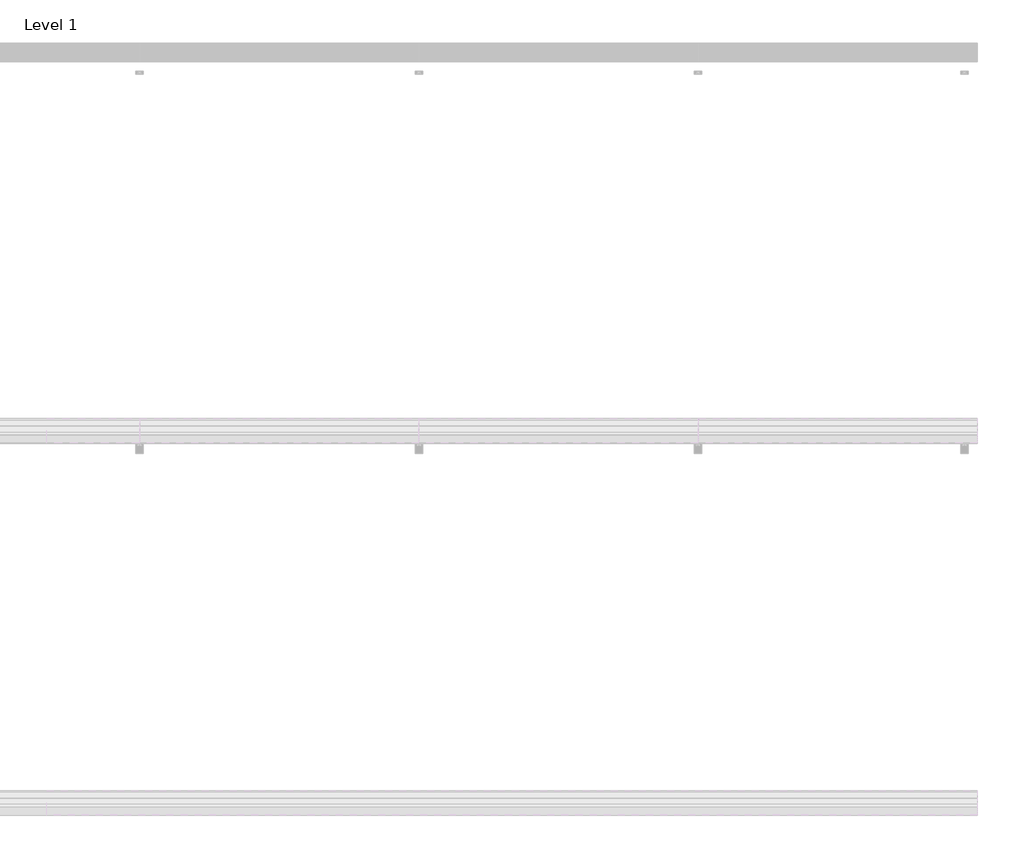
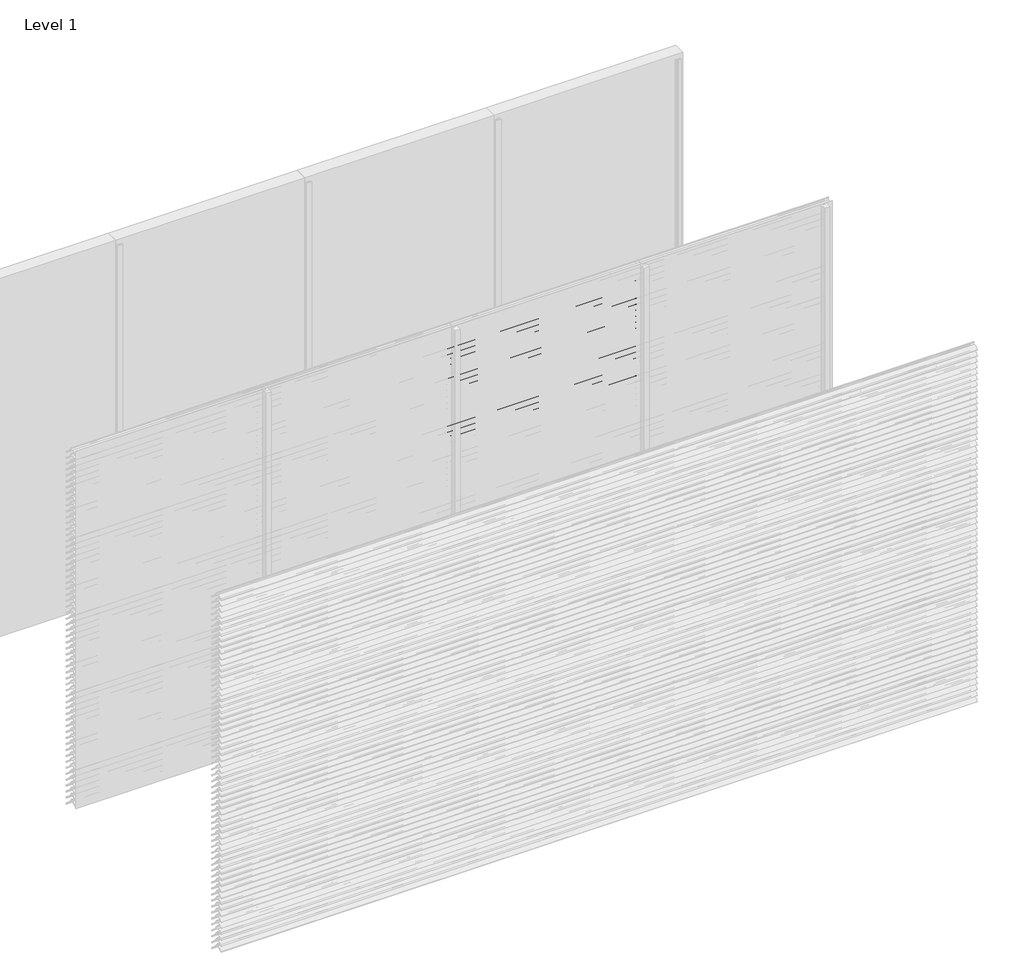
# One storey, part 82 of 173: 17 proxies.
"""IFC4 building model written with IfcOpenShell, lengths in millimetres."""

from ifc_helpers import new_model, si_unit, point, frame, frame_2d, origin, place, context, project, spatial, polyline, circle_curve, trimmed, segment, composite_curve, outline, extrude, element, save

model = new_model("IFC4")

# Units and contexts
model_context = context("Model", 3, world=origin())
ifc_project = project(units=[si_unit("LENGTHUNIT", "METRE", prefix="MILLI")], contexts=[model_context])

# Site, building, storey
site = spatial("IfcSite", under=ifc_project)
building = spatial("IfcBuilding", under=site)
storey = spatial("IfcBuildingStorey", under=building, Name="Level 1", Elevation=0.0)

# Proxies
placement = place(None, origin())
element("IfcBuildingElementProxy", 1, Name="Wall Sweeps", at=placement, inside=storey, context=model_context, shape_type="SweptSolid", body=[
    extrude(outline(composite_curve([segment(polyline([(-29998.0, 2809.1474905), (-29998.0, 2811.6227417)]), True, "CONTINUOUS"), segment(trimmed(circle_curve(frame_2d((-29951.2682172, 2766.2200208)), 65.1557103), [point((-29998.0, 2811.6227417))], [point((-29954.4014323, 2831.3003524))], False, "CARTESIAN"), True, "CONTINUOUS"), segment(polyline([(-29954.4014323, 2831.3003524), (-29934.8315836, 2831.3003524)]), True, "CONTINUOUS"), segment(trimmed(circle_curve(frame_2d((-29732.7329489, 2978.5533172)), 250.0545817), [point((-29934.8315836, 2831.3003524))], [point((-29941.4452143, 2840.8344583))], False, "CARTESIAN"), True, "CONTINUOUS"), segment(trimmed(circle_curve(frame_2d((-29953.2981792, 2835.1737835)), 13.1352966), [point((-29941.4452143, 2840.8344583))], [point((-29953.8171475, 2848.298824))], True, "CARTESIAN"), True, "CONTINUOUS"), segment(polyline([(-29953.8171475, 2848.298824), (-29953.8171475, 2850.0)]), True, "CONTINUOUS"), segment(trimmed(circle_curve(frame_2d((-29953.2981792, 2835.1737835)), 14.8352966), [point((-29953.8171475, 2850.0))], [point((-29939.9637661, 2841.6760487))], False, "CARTESIAN"), True, "CONTINUOUS"), segment(trimmed(circle_curve(frame_2d((-29732.7329489, 2978.5533172)), 248.3545817), [point((-29939.9637661, 2841.6760487))], [point((-29873.8787895, 2774.2059416))], True, "CARTESIAN"), True, "CONTINUOUS"), segment(trimmed(circle_curve(frame_2d((-29883.8147537, 2761.6649442)), 16.0), [point((-29873.8787895, 2774.2059416))], [point((-29867.8648347, 2760.4))], False, "CARTESIAN"), True, "CONTINUOUS"), segment(polyline([(-29867.8648347, 2760.4), (-29869.6712069, 2760.4)]), True, "CONTINUOUS"), segment(trimmed(circle_curve(frame_2d((-29883.8147537, 2761.6649442)), 14.2), [point((-29869.6712069, 2760.4))], [point((-29874.9518628, 2772.7594998))], True, "CARTESIAN"), True, "CONTINUOUS"), segment(trimmed(circle_curve(frame_2d((-29732.7329489, 2978.5533172)), 250.1545817), [point((-29874.9518628, 2772.7594998))], [point((-29933.7064024, 2829.6003524))], False, "CARTESIAN"), True, "CONTINUOUS"), segment(polyline([(-29933.7064024, 2829.6003524), (-29954.3602632, 2829.6003524)]), True, "CONTINUOUS"), segment(trimmed(circle_curve(frame_2d((-29951.2682172, 2766.2200208)), 63.4557103), [point((-29954.3602632, 2829.6003524))], [point((-29998.0, 2809.1474905))], True, "CARTESIAN"), True, "CONTINUOUS")], self_intersect=False)), frame((3000.0, 0.0, 0.0), z_axis=(1.0, 0.0, 0.0), x_axis=(0.0, 1.0, 0.0)), (0.0, 0.0, 1.0), 1500.0),
])
element("IfcBuildingElementProxy", 2, Name="Wall Sweeps", at=placement, inside=storey, context=model_context, shape_type="SweptSolid", body=[
    extrude(outline(composite_curve([segment(polyline([(-29998.0, 2759.1474905), (-29998.0, 2761.6227417)]), True, "CONTINUOUS"), segment(trimmed(circle_curve(frame_2d((-29951.2682172, 2716.2200208)), 65.1557103), [point((-29998.0, 2761.6227417))], [point((-29954.4014323, 2781.3003524))], False, "CARTESIAN"), True, "CONTINUOUS"), segment(polyline([(-29954.4014323, 2781.3003524), (-29934.8315836, 2781.3003524)]), True, "CONTINUOUS"), segment(trimmed(circle_curve(frame_2d((-29732.7329489, 2928.5533172)), 250.0545817), [point((-29934.8315836, 2781.3003524))], [point((-29941.4452143, 2790.8344583))], False, "CARTESIAN"), True, "CONTINUOUS"), segment(trimmed(circle_curve(frame_2d((-29953.2981792, 2785.1737835)), 13.1352966), [point((-29941.4452143, 2790.8344583))], [point((-29953.8171475, 2798.298824))], True, "CARTESIAN"), True, "CONTINUOUS"), segment(polyline([(-29953.8171475, 2798.298824), (-29953.8171475, 2800.0)]), True, "CONTINUOUS"), segment(trimmed(circle_curve(frame_2d((-29953.2981792, 2785.1737835)), 14.8352966), [point((-29953.8171475, 2800.0))], [point((-29939.9637661, 2791.6760487))], False, "CARTESIAN"), True, "CONTINUOUS"), segment(trimmed(circle_curve(frame_2d((-29732.7329489, 2928.5533172)), 248.3545817), [point((-29939.9637661, 2791.6760487))], [point((-29873.8787895, 2724.2059416))], True, "CARTESIAN"), True, "CONTINUOUS"), segment(trimmed(circle_curve(frame_2d((-29883.8147537, 2711.6649442)), 16.0), [point((-29873.8787895, 2724.2059416))], [point((-29867.8648347, 2710.4))], False, "CARTESIAN"), True, "CONTINUOUS"), segment(polyline([(-29867.8648347, 2710.4), (-29869.6712069, 2710.4)]), True, "CONTINUOUS"), segment(trimmed(circle_curve(frame_2d((-29883.8147537, 2711.6649442)), 14.2), [point((-29869.6712069, 2710.4))], [point((-29874.9518628, 2722.7594998))], True, "CARTESIAN"), True, "CONTINUOUS"), segment(trimmed(circle_curve(frame_2d((-29732.7329489, 2928.5533172)), 250.1545817), [point((-29874.9518628, 2722.7594998))], [point((-29933.7064024, 2779.6003524))], False, "CARTESIAN"), True, "CONTINUOUS"), segment(polyline([(-29933.7064024, 2779.6003524), (-29954.3602632, 2779.6003524)]), True, "CONTINUOUS"), segment(trimmed(circle_curve(frame_2d((-29951.2682172, 2716.2200208)), 63.4557103), [point((-29954.3602632, 2779.6003524))], [point((-29998.0, 2759.1474905))], True, "CARTESIAN"), True, "CONTINUOUS")], self_intersect=False)), frame((3000.0, 0.0, 0.0), z_axis=(1.0, 0.0, 0.0), x_axis=(0.0, 1.0, 0.0)), (0.0, 0.0, 1.0), 1500.0),
])
element("IfcBuildingElementProxy", 3, Name="Wall Sweeps", at=placement, inside=storey, context=model_context, shape_type="SweptSolid", body=[
    extrude(outline(composite_curve([segment(polyline([(-29998.0, 2709.1474905), (-29998.0, 2711.6227417)]), True, "CONTINUOUS"), segment(trimmed(circle_curve(frame_2d((-29951.2682172, 2666.2200208)), 65.1557103), [point((-29998.0, 2711.6227417))], [point((-29954.4014323, 2731.3003524))], False, "CARTESIAN"), True, "CONTINUOUS"), segment(polyline([(-29954.4014323, 2731.3003524), (-29934.8315836, 2731.3003524)]), True, "CONTINUOUS"), segment(trimmed(circle_curve(frame_2d((-29732.7329489, 2878.5533172)), 250.0545817), [point((-29934.8315836, 2731.3003524))], [point((-29941.4452143, 2740.8344583))], False, "CARTESIAN"), True, "CONTINUOUS"), segment(trimmed(circle_curve(frame_2d((-29953.2981792, 2735.1737835)), 13.1352966), [point((-29941.4452143, 2740.8344583))], [point((-29953.8171475, 2748.298824))], True, "CARTESIAN"), True, "CONTINUOUS"), segment(polyline([(-29953.8171475, 2748.298824), (-29953.8171475, 2750.0)]), True, "CONTINUOUS"), segment(trimmed(circle_curve(frame_2d((-29953.2981792, 2735.1737835)), 14.8352966), [point((-29953.8171475, 2750.0))], [point((-29939.9637661, 2741.6760487))], False, "CARTESIAN"), True, "CONTINUOUS"), segment(trimmed(circle_curve(frame_2d((-29732.7329489, 2878.5533172)), 248.3545817), [point((-29939.9637661, 2741.6760487))], [point((-29873.8787895, 2674.2059416))], True, "CARTESIAN"), True, "CONTINUOUS"), segment(trimmed(circle_curve(frame_2d((-29883.8147537, 2661.6649442)), 16.0), [point((-29873.8787895, 2674.2059416))], [point((-29867.8648347, 2660.4))], False, "CARTESIAN"), True, "CONTINUOUS"), segment(polyline([(-29867.8648347, 2660.4), (-29869.6712069, 2660.4)]), True, "CONTINUOUS"), segment(trimmed(circle_curve(frame_2d((-29883.8147537, 2661.6649442)), 14.2), [point((-29869.6712069, 2660.4))], [point((-29874.9518628, 2672.7594998))], True, "CARTESIAN"), True, "CONTINUOUS"), segment(trimmed(circle_curve(frame_2d((-29732.7329489, 2878.5533172)), 250.1545817), [point((-29874.9518628, 2672.7594998))], [point((-29933.7064024, 2729.6003524))], False, "CARTESIAN"), True, "CONTINUOUS"), segment(polyline([(-29933.7064024, 2729.6003524), (-29954.3602632, 2729.6003524)]), True, "CONTINUOUS"), segment(trimmed(circle_curve(frame_2d((-29951.2682172, 2666.2200208)), 63.4557103), [point((-29954.3602632, 2729.6003524))], [point((-29998.0, 2709.1474905))], True, "CARTESIAN"), True, "CONTINUOUS")], self_intersect=False)), frame((3000.0, 0.0, 0.0), z_axis=(1.0, 0.0, 0.0), x_axis=(0.0, 1.0, 0.0)), (0.0, 0.0, 1.0), 1500.0),
])
element("IfcBuildingElementProxy", 4, Name="Wall Sweeps", at=placement, inside=storey, context=model_context, shape_type="SweptSolid", body=[
    extrude(outline(composite_curve([segment(polyline([(-29998.0, 2659.1474905), (-29998.0, 2661.6227417)]), True, "CONTINUOUS"), segment(trimmed(circle_curve(frame_2d((-29951.2682172, 2616.2200208)), 65.1557103), [point((-29998.0, 2661.6227417))], [point((-29954.4014323, 2681.3003524))], False, "CARTESIAN"), True, "CONTINUOUS"), segment(polyline([(-29954.4014323, 2681.3003524), (-29934.8315836, 2681.3003524)]), True, "CONTINUOUS"), segment(trimmed(circle_curve(frame_2d((-29732.7329489, 2828.5533172)), 250.0545817), [point((-29934.8315836, 2681.3003524))], [point((-29941.4452143, 2690.8344583))], False, "CARTESIAN"), True, "CONTINUOUS"), segment(trimmed(circle_curve(frame_2d((-29953.2981792, 2685.1737835)), 13.1352966), [point((-29941.4452143, 2690.8344583))], [point((-29953.8171475, 2698.298824))], True, "CARTESIAN"), True, "CONTINUOUS"), segment(polyline([(-29953.8171475, 2698.298824), (-29953.8171475, 2700.0)]), True, "CONTINUOUS"), segment(trimmed(circle_curve(frame_2d((-29953.2981792, 2685.1737835)), 14.8352966), [point((-29953.8171475, 2700.0))], [point((-29939.9637661, 2691.6760487))], False, "CARTESIAN"), True, "CONTINUOUS"), segment(trimmed(circle_curve(frame_2d((-29732.7329489, 2828.5533172)), 248.3545817), [point((-29939.9637661, 2691.6760487))], [point((-29873.8787895, 2624.2059416))], True, "CARTESIAN"), True, "CONTINUOUS"), segment(trimmed(circle_curve(frame_2d((-29883.8147537, 2611.6649442)), 16.0), [point((-29873.8787895, 2624.2059416))], [point((-29867.8648347, 2610.4))], False, "CARTESIAN"), True, "CONTINUOUS"), segment(polyline([(-29867.8648347, 2610.4), (-29869.6712069, 2610.4)]), True, "CONTINUOUS"), segment(trimmed(circle_curve(frame_2d((-29883.8147537, 2611.6649442)), 14.2), [point((-29869.6712069, 2610.4))], [point((-29874.9518628, 2622.7594998))], True, "CARTESIAN"), True, "CONTINUOUS"), segment(trimmed(circle_curve(frame_2d((-29732.7329489, 2828.5533172)), 250.1545817), [point((-29874.9518628, 2622.7594998))], [point((-29933.7064024, 2679.6003524))], False, "CARTESIAN"), True, "CONTINUOUS"), segment(polyline([(-29933.7064024, 2679.6003524), (-29954.3602632, 2679.6003524)]), True, "CONTINUOUS"), segment(trimmed(circle_curve(frame_2d((-29951.2682172, 2616.2200208)), 63.4557103), [point((-29954.3602632, 2679.6003524))], [point((-29998.0, 2659.1474905))], True, "CARTESIAN"), True, "CONTINUOUS")], self_intersect=False)), frame((3000.0, 0.0, 0.0), z_axis=(1.0, 0.0, 0.0), x_axis=(0.0, 1.0, 0.0)), (0.0, 0.0, 1.0), 1500.0),
])
element("IfcBuildingElementProxy", 5, Name="Wall Sweeps", at=placement, inside=storey, context=model_context, shape_type="SweptSolid", body=[
    extrude(outline(composite_curve([segment(polyline([(-29998.0, 2609.1474905), (-29998.0, 2611.6227417)]), True, "CONTINUOUS"), segment(trimmed(circle_curve(frame_2d((-29951.2682172, 2566.2200208)), 65.1557103), [point((-29998.0, 2611.6227417))], [point((-29954.4014323, 2631.3003524))], False, "CARTESIAN"), True, "CONTINUOUS"), segment(polyline([(-29954.4014323, 2631.3003524), (-29934.8315836, 2631.3003524)]), True, "CONTINUOUS"), segment(trimmed(circle_curve(frame_2d((-29732.7329489, 2778.5533172)), 250.0545817), [point((-29934.8315836, 2631.3003524))], [point((-29941.4452143, 2640.8344583))], False, "CARTESIAN"), True, "CONTINUOUS"), segment(trimmed(circle_curve(frame_2d((-29953.2981792, 2635.1737835)), 13.1352966), [point((-29941.4452143, 2640.8344583))], [point((-29953.8171475, 2648.298824))], True, "CARTESIAN"), True, "CONTINUOUS"), segment(polyline([(-29953.8171475, 2648.298824), (-29953.8171475, 2650.0)]), True, "CONTINUOUS"), segment(trimmed(circle_curve(frame_2d((-29953.2981792, 2635.1737835)), 14.8352966), [point((-29953.8171475, 2650.0))], [point((-29939.9637661, 2641.6760487))], False, "CARTESIAN"), True, "CONTINUOUS"), segment(trimmed(circle_curve(frame_2d((-29732.7329489, 2778.5533172)), 248.3545817), [point((-29939.9637661, 2641.6760487))], [point((-29873.8787895, 2574.2059416))], True, "CARTESIAN"), True, "CONTINUOUS"), segment(trimmed(circle_curve(frame_2d((-29883.8147537, 2561.6649442)), 16.0), [point((-29873.8787895, 2574.2059416))], [point((-29867.8648347, 2560.4))], False, "CARTESIAN"), True, "CONTINUOUS"), segment(polyline([(-29867.8648347, 2560.4), (-29869.6712069, 2560.4)]), True, "CONTINUOUS"), segment(trimmed(circle_curve(frame_2d((-29883.8147537, 2561.6649442)), 14.2), [point((-29869.6712069, 2560.4))], [point((-29874.9518628, 2572.7594998))], True, "CARTESIAN"), True, "CONTINUOUS"), segment(trimmed(circle_curve(frame_2d((-29732.7329489, 2778.5533172)), 250.1545817), [point((-29874.9518628, 2572.7594998))], [point((-29933.7064024, 2629.6003524))], False, "CARTESIAN"), True, "CONTINUOUS"), segment(polyline([(-29933.7064024, 2629.6003524), (-29954.3602632, 2629.6003524)]), True, "CONTINUOUS"), segment(trimmed(circle_curve(frame_2d((-29951.2682172, 2566.2200208)), 63.4557103), [point((-29954.3602632, 2629.6003524))], [point((-29998.0, 2609.1474905))], True, "CARTESIAN"), True, "CONTINUOUS")], self_intersect=False)), frame((3000.0, 0.0, 0.0), z_axis=(1.0, 0.0, 0.0), x_axis=(0.0, 1.0, 0.0)), (0.0, 0.0, 1.0), 1500.0),
])
element("IfcBuildingElementProxy", 6, Name="Wall Sweeps", at=placement, inside=storey, context=model_context, shape_type="SweptSolid", body=[
    extrude(outline(composite_curve([segment(polyline([(-29998.0, 2559.1474905), (-29998.0, 2561.6227417)]), True, "CONTINUOUS"), segment(trimmed(circle_curve(frame_2d((-29951.2682172, 2516.2200208)), 65.1557103), [point((-29998.0, 2561.6227417))], [point((-29954.4014323, 2581.3003524))], False, "CARTESIAN"), True, "CONTINUOUS"), segment(polyline([(-29954.4014323, 2581.3003524), (-29934.8315836, 2581.3003524)]), True, "CONTINUOUS"), segment(trimmed(circle_curve(frame_2d((-29732.7329489, 2728.5533172)), 250.0545817), [point((-29934.8315836, 2581.3003524))], [point((-29941.4452143, 2590.8344583))], False, "CARTESIAN"), True, "CONTINUOUS"), segment(trimmed(circle_curve(frame_2d((-29953.2981792, 2585.1737835)), 13.1352966), [point((-29941.4452143, 2590.8344583))], [point((-29953.8171475, 2598.298824))], True, "CARTESIAN"), True, "CONTINUOUS"), segment(polyline([(-29953.8171475, 2598.298824), (-29953.8171475, 2600.0)]), True, "CONTINUOUS"), segment(trimmed(circle_curve(frame_2d((-29953.2981792, 2585.1737835)), 14.8352966), [point((-29953.8171475, 2600.0))], [point((-29939.9637661, 2591.6760487))], False, "CARTESIAN"), True, "CONTINUOUS"), segment(trimmed(circle_curve(frame_2d((-29732.7329489, 2728.5533172)), 248.3545817), [point((-29939.9637661, 2591.6760487))], [point((-29873.8787895, 2524.2059416))], True, "CARTESIAN"), True, "CONTINUOUS"), segment(trimmed(circle_curve(frame_2d((-29883.8147537, 2511.6649442)), 16.0), [point((-29873.8787895, 2524.2059416))], [point((-29867.8648347, 2510.4))], False, "CARTESIAN"), True, "CONTINUOUS"), segment(polyline([(-29867.8648347, 2510.4), (-29869.6712069, 2510.4)]), True, "CONTINUOUS"), segment(trimmed(circle_curve(frame_2d((-29883.8147537, 2511.6649442)), 14.2), [point((-29869.6712069, 2510.4))], [point((-29874.9518628, 2522.7594998))], True, "CARTESIAN"), True, "CONTINUOUS"), segment(trimmed(circle_curve(frame_2d((-29732.7329489, 2728.5533172)), 250.1545817), [point((-29874.9518628, 2522.7594998))], [point((-29933.7064024, 2579.6003524))], False, "CARTESIAN"), True, "CONTINUOUS"), segment(polyline([(-29933.7064024, 2579.6003524), (-29954.3602632, 2579.6003524)]), True, "CONTINUOUS"), segment(trimmed(circle_curve(frame_2d((-29951.2682172, 2516.2200208)), 63.4557103), [point((-29954.3602632, 2579.6003524))], [point((-29998.0, 2559.1474905))], True, "CARTESIAN"), True, "CONTINUOUS")], self_intersect=False)), frame((3000.0, 0.0, 0.0), z_axis=(1.0, 0.0, 0.0), x_axis=(0.0, 1.0, 0.0)), (0.0, 0.0, 1.0), 1500.0),
])
element("IfcBuildingElementProxy", 7, Name="Wall Sweeps", at=placement, inside=storey, context=model_context, shape_type="SweptSolid", body=[
    extrude(outline(composite_curve([segment(polyline([(-29998.0, 2509.1474905), (-29998.0, 2511.6227417)]), True, "CONTINUOUS"), segment(trimmed(circle_curve(frame_2d((-29951.2682172, 2466.2200208)), 65.1557103), [point((-29998.0, 2511.6227417))], [point((-29954.4014323, 2531.3003524))], False, "CARTESIAN"), True, "CONTINUOUS"), segment(polyline([(-29954.4014323, 2531.3003524), (-29934.8315836, 2531.3003524)]), True, "CONTINUOUS"), segment(trimmed(circle_curve(frame_2d((-29732.7329489, 2678.5533172)), 250.0545817), [point((-29934.8315836, 2531.3003524))], [point((-29941.4452143, 2540.8344583))], False, "CARTESIAN"), True, "CONTINUOUS"), segment(trimmed(circle_curve(frame_2d((-29953.2981792, 2535.1737835)), 13.1352966), [point((-29941.4452143, 2540.8344583))], [point((-29953.8171475, 2548.298824))], True, "CARTESIAN"), True, "CONTINUOUS"), segment(polyline([(-29953.8171475, 2548.298824), (-29953.8171475, 2550.0)]), True, "CONTINUOUS"), segment(trimmed(circle_curve(frame_2d((-29953.2981792, 2535.1737835)), 14.8352966), [point((-29953.8171475, 2550.0))], [point((-29939.9637661, 2541.6760487))], False, "CARTESIAN"), True, "CONTINUOUS"), segment(trimmed(circle_curve(frame_2d((-29732.7329489, 2678.5533172)), 248.3545817), [point((-29939.9637661, 2541.6760487))], [point((-29873.8787895, 2474.2059416))], True, "CARTESIAN"), True, "CONTINUOUS"), segment(trimmed(circle_curve(frame_2d((-29883.8147537, 2461.6649442)), 16.0), [point((-29873.8787895, 2474.2059416))], [point((-29867.8648347, 2460.4))], False, "CARTESIAN"), True, "CONTINUOUS"), segment(polyline([(-29867.8648347, 2460.4), (-29869.6712069, 2460.4)]), True, "CONTINUOUS"), segment(trimmed(circle_curve(frame_2d((-29883.8147537, 2461.6649442)), 14.2), [point((-29869.6712069, 2460.4))], [point((-29874.9518628, 2472.7594998))], True, "CARTESIAN"), True, "CONTINUOUS"), segment(trimmed(circle_curve(frame_2d((-29732.7329489, 2678.5533172)), 250.1545817), [point((-29874.9518628, 2472.7594998))], [point((-29933.7064024, 2529.6003524))], False, "CARTESIAN"), True, "CONTINUOUS"), segment(polyline([(-29933.7064024, 2529.6003524), (-29954.3602632, 2529.6003524)]), True, "CONTINUOUS"), segment(trimmed(circle_curve(frame_2d((-29951.2682172, 2466.2200208)), 63.4557103), [point((-29954.3602632, 2529.6003524))], [point((-29998.0, 2509.1474905))], True, "CARTESIAN"), True, "CONTINUOUS")], self_intersect=False)), frame((3000.0, 0.0, 0.0), z_axis=(1.0, 0.0, 0.0), x_axis=(0.0, 1.0, 0.0)), (0.0, 0.0, 1.0), 1500.0),
])
element("IfcBuildingElementProxy", 8, Name="Wall Sweeps", at=placement, inside=storey, context=model_context, shape_type="SweptSolid", body=[
    extrude(outline(composite_curve([segment(polyline([(-29998.0, 2459.1474905), (-29998.0, 2461.6227417)]), True, "CONTINUOUS"), segment(trimmed(circle_curve(frame_2d((-29951.2682172, 2416.2200208)), 65.1557103), [point((-29998.0, 2461.6227417))], [point((-29954.4014323, 2481.3003524))], False, "CARTESIAN"), True, "CONTINUOUS"), segment(polyline([(-29954.4014323, 2481.3003524), (-29934.8315836, 2481.3003524)]), True, "CONTINUOUS"), segment(trimmed(circle_curve(frame_2d((-29732.7329489, 2628.5533172)), 250.0545817), [point((-29934.8315836, 2481.3003524))], [point((-29941.4452143, 2490.8344583))], False, "CARTESIAN"), True, "CONTINUOUS"), segment(trimmed(circle_curve(frame_2d((-29953.2981792, 2485.1737835)), 13.1352966), [point((-29941.4452143, 2490.8344583))], [point((-29953.8171475, 2498.298824))], True, "CARTESIAN"), True, "CONTINUOUS"), segment(polyline([(-29953.8171475, 2498.298824), (-29953.8171475, 2500.0)]), True, "CONTINUOUS"), segment(trimmed(circle_curve(frame_2d((-29953.2981792, 2485.1737835)), 14.8352966), [point((-29953.8171475, 2500.0))], [point((-29939.9637661, 2491.6760487))], False, "CARTESIAN"), True, "CONTINUOUS"), segment(trimmed(circle_curve(frame_2d((-29732.7329489, 2628.5533172)), 248.3545817), [point((-29939.9637661, 2491.6760487))], [point((-29873.8787895, 2424.2059416))], True, "CARTESIAN"), True, "CONTINUOUS"), segment(trimmed(circle_curve(frame_2d((-29883.8147537, 2411.6649442)), 16.0), [point((-29873.8787895, 2424.2059416))], [point((-29867.8648347, 2410.4))], False, "CARTESIAN"), True, "CONTINUOUS"), segment(polyline([(-29867.8648347, 2410.4), (-29869.6712069, 2410.4)]), True, "CONTINUOUS"), segment(trimmed(circle_curve(frame_2d((-29883.8147537, 2411.6649442)), 14.2), [point((-29869.6712069, 2410.4))], [point((-29874.9518628, 2422.7594998))], True, "CARTESIAN"), True, "CONTINUOUS"), segment(trimmed(circle_curve(frame_2d((-29732.7329489, 2628.5533172)), 250.1545817), [point((-29874.9518628, 2422.7594998))], [point((-29933.7064024, 2479.6003524))], False, "CARTESIAN"), True, "CONTINUOUS"), segment(polyline([(-29933.7064024, 2479.6003524), (-29954.3602632, 2479.6003524)]), True, "CONTINUOUS"), segment(trimmed(circle_curve(frame_2d((-29951.2682172, 2416.2200208)), 63.4557103), [point((-29954.3602632, 2479.6003524))], [point((-29998.0, 2459.1474905))], True, "CARTESIAN"), True, "CONTINUOUS")], self_intersect=False)), frame((3000.0, 0.0, 0.0), z_axis=(1.0, 0.0, 0.0), x_axis=(0.0, 1.0, 0.0)), (0.0, 0.0, 1.0), 1500.0),
])
element("IfcBuildingElementProxy", 9, Name="Wall Sweeps", at=placement, inside=storey, context=model_context, shape_type="SweptSolid", body=[
    extrude(outline(composite_curve([segment(polyline([(-29998.0, 2409.1474905), (-29998.0, 2411.6227417)]), True, "CONTINUOUS"), segment(trimmed(circle_curve(frame_2d((-29951.2682172, 2366.2200208)), 65.1557103), [point((-29998.0, 2411.6227417))], [point((-29954.4014323, 2431.3003524))], False, "CARTESIAN"), True, "CONTINUOUS"), segment(polyline([(-29954.4014323, 2431.3003524), (-29934.8315836, 2431.3003524)]), True, "CONTINUOUS"), segment(trimmed(circle_curve(frame_2d((-29732.7329489, 2578.5533172)), 250.0545817), [point((-29934.8315836, 2431.3003524))], [point((-29941.4452143, 2440.8344583))], False, "CARTESIAN"), True, "CONTINUOUS"), segment(trimmed(circle_curve(frame_2d((-29953.2981792, 2435.1737835)), 13.1352966), [point((-29941.4452143, 2440.8344583))], [point((-29953.8171475, 2448.298824))], True, "CARTESIAN"), True, "CONTINUOUS"), segment(polyline([(-29953.8171475, 2448.298824), (-29953.8171475, 2450.0)]), True, "CONTINUOUS"), segment(trimmed(circle_curve(frame_2d((-29953.2981792, 2435.1737835)), 14.8352966), [point((-29953.8171475, 2450.0))], [point((-29939.9637661, 2441.6760487))], False, "CARTESIAN"), True, "CONTINUOUS"), segment(trimmed(circle_curve(frame_2d((-29732.7329489, 2578.5533172)), 248.3545817), [point((-29939.9637661, 2441.6760487))], [point((-29873.8787895, 2374.2059416))], True, "CARTESIAN"), True, "CONTINUOUS"), segment(trimmed(circle_curve(frame_2d((-29883.8147537, 2361.6649442)), 16.0), [point((-29873.8787895, 2374.2059416))], [point((-29867.8648347, 2360.4))], False, "CARTESIAN"), True, "CONTINUOUS"), segment(polyline([(-29867.8648347, 2360.4), (-29869.6712069, 2360.4)]), True, "CONTINUOUS"), segment(trimmed(circle_curve(frame_2d((-29883.8147537, 2361.6649442)), 14.2), [point((-29869.6712069, 2360.4))], [point((-29874.9518628, 2372.7594998))], True, "CARTESIAN"), True, "CONTINUOUS"), segment(trimmed(circle_curve(frame_2d((-29732.7329489, 2578.5533172)), 250.1545817), [point((-29874.9518628, 2372.7594998))], [point((-29933.7064024, 2429.6003524))], False, "CARTESIAN"), True, "CONTINUOUS"), segment(polyline([(-29933.7064024, 2429.6003524), (-29954.3602632, 2429.6003524)]), True, "CONTINUOUS"), segment(trimmed(circle_curve(frame_2d((-29951.2682172, 2366.2200208)), 63.4557103), [point((-29954.3602632, 2429.6003524))], [point((-29998.0, 2409.1474905))], True, "CARTESIAN"), True, "CONTINUOUS")], self_intersect=False)), frame((3000.0, 0.0, 0.0), z_axis=(1.0, 0.0, 0.0), x_axis=(0.0, 1.0, 0.0)), (0.0, 0.0, 1.0), 1500.0),
])
element("IfcBuildingElementProxy", 10, Name="Wall Sweeps", at=placement, inside=storey, context=model_context, shape_type="SweptSolid", body=[
    extrude(outline(composite_curve([segment(polyline([(-29998.0, 2359.1474905), (-29998.0, 2361.6227417)]), True, "CONTINUOUS"), segment(trimmed(circle_curve(frame_2d((-29951.2682172, 2316.2200208)), 65.1557103), [point((-29998.0, 2361.6227417))], [point((-29954.4014323, 2381.3003524))], False, "CARTESIAN"), True, "CONTINUOUS"), segment(polyline([(-29954.4014323, 2381.3003524), (-29934.8315836, 2381.3003524)]), True, "CONTINUOUS"), segment(trimmed(circle_curve(frame_2d((-29732.7329489, 2528.5533172)), 250.0545817), [point((-29934.8315836, 2381.3003524))], [point((-29941.4452143, 2390.8344583))], False, "CARTESIAN"), True, "CONTINUOUS"), segment(trimmed(circle_curve(frame_2d((-29953.2981792, 2385.1737835)), 13.1352966), [point((-29941.4452143, 2390.8344583))], [point((-29953.8171475, 2398.298824))], True, "CARTESIAN"), True, "CONTINUOUS"), segment(polyline([(-29953.8171475, 2398.298824), (-29953.8171475, 2400.0)]), True, "CONTINUOUS"), segment(trimmed(circle_curve(frame_2d((-29953.2981792, 2385.1737835)), 14.8352966), [point((-29953.8171475, 2400.0))], [point((-29939.9637661, 2391.6760487))], False, "CARTESIAN"), True, "CONTINUOUS"), segment(trimmed(circle_curve(frame_2d((-29732.7329489, 2528.5533172)), 248.3545817), [point((-29939.9637661, 2391.6760487))], [point((-29873.8787895, 2324.2059416))], True, "CARTESIAN"), True, "CONTINUOUS"), segment(trimmed(circle_curve(frame_2d((-29883.8147537, 2311.6649442)), 16.0), [point((-29873.8787895, 2324.2059416))], [point((-29867.8648347, 2310.4))], False, "CARTESIAN"), True, "CONTINUOUS"), segment(polyline([(-29867.8648347, 2310.4), (-29869.6712069, 2310.4)]), True, "CONTINUOUS"), segment(trimmed(circle_curve(frame_2d((-29883.8147537, 2311.6649442)), 14.2), [point((-29869.6712069, 2310.4))], [point((-29874.9518628, 2322.7594998))], True, "CARTESIAN"), True, "CONTINUOUS"), segment(trimmed(circle_curve(frame_2d((-29732.7329489, 2528.5533172)), 250.1545817), [point((-29874.9518628, 2322.7594998))], [point((-29933.7064024, 2379.6003524))], False, "CARTESIAN"), True, "CONTINUOUS"), segment(polyline([(-29933.7064024, 2379.6003524), (-29954.3602632, 2379.6003524)]), True, "CONTINUOUS"), segment(trimmed(circle_curve(frame_2d((-29951.2682172, 2316.2200208)), 63.4557103), [point((-29954.3602632, 2379.6003524))], [point((-29998.0, 2359.1474905))], True, "CARTESIAN"), True, "CONTINUOUS")], self_intersect=False)), frame((3000.0, 0.0, 0.0), z_axis=(1.0, 0.0, 0.0), x_axis=(0.0, 1.0, 0.0)), (0.0, 0.0, 1.0), 1500.0),
])
element("IfcBuildingElementProxy", 11, Name="Wall Sweeps", at=placement, inside=storey, context=model_context, shape_type="SweptSolid", body=[
    extrude(outline(composite_curve([segment(polyline([(-29998.0, 2309.1474905), (-29998.0, 2311.6227417)]), True, "CONTINUOUS"), segment(trimmed(circle_curve(frame_2d((-29951.2682172, 2266.2200208)), 65.1557103), [point((-29998.0, 2311.6227417))], [point((-29954.4014323, 2331.3003524))], False, "CARTESIAN"), True, "CONTINUOUS"), segment(polyline([(-29954.4014323, 2331.3003524), (-29934.8315836, 2331.3003524)]), True, "CONTINUOUS"), segment(trimmed(circle_curve(frame_2d((-29732.7329489, 2478.5533172)), 250.0545817), [point((-29934.8315836, 2331.3003524))], [point((-29941.4452143, 2340.8344583))], False, "CARTESIAN"), True, "CONTINUOUS"), segment(trimmed(circle_curve(frame_2d((-29953.2981792, 2335.1737835)), 13.1352966), [point((-29941.4452143, 2340.8344583))], [point((-29953.8171475, 2348.298824))], True, "CARTESIAN"), True, "CONTINUOUS"), segment(polyline([(-29953.8171475, 2348.298824), (-29953.8171475, 2350.0)]), True, "CONTINUOUS"), segment(trimmed(circle_curve(frame_2d((-29953.2981792, 2335.1737835)), 14.8352966), [point((-29953.8171475, 2350.0))], [point((-29939.9637661, 2341.6760487))], False, "CARTESIAN"), True, "CONTINUOUS"), segment(trimmed(circle_curve(frame_2d((-29732.7329489, 2478.5533172)), 248.3545817), [point((-29939.9637661, 2341.6760487))], [point((-29873.8787895, 2274.2059416))], True, "CARTESIAN"), True, "CONTINUOUS"), segment(trimmed(circle_curve(frame_2d((-29883.8147537, 2261.6649442)), 16.0), [point((-29873.8787895, 2274.2059416))], [point((-29867.8648347, 2260.4))], False, "CARTESIAN"), True, "CONTINUOUS"), segment(polyline([(-29867.8648347, 2260.4), (-29869.6712069, 2260.4)]), True, "CONTINUOUS"), segment(trimmed(circle_curve(frame_2d((-29883.8147537, 2261.6649442)), 14.2), [point((-29869.6712069, 2260.4))], [point((-29874.9518628, 2272.7594998))], True, "CARTESIAN"), True, "CONTINUOUS"), segment(trimmed(circle_curve(frame_2d((-29732.7329489, 2478.5533172)), 250.1545817), [point((-29874.9518628, 2272.7594998))], [point((-29933.7064024, 2329.6003524))], False, "CARTESIAN"), True, "CONTINUOUS"), segment(polyline([(-29933.7064024, 2329.6003524), (-29954.3602632, 2329.6003524)]), True, "CONTINUOUS"), segment(trimmed(circle_curve(frame_2d((-29951.2682172, 2266.2200208)), 63.4557103), [point((-29954.3602632, 2329.6003524))], [point((-29998.0, 2309.1474905))], True, "CARTESIAN"), True, "CONTINUOUS")], self_intersect=False)), frame((3000.0, 0.0, 0.0), z_axis=(1.0, 0.0, 0.0), x_axis=(0.0, 1.0, 0.0)), (0.0, 0.0, 1.0), 1500.0),
])
element("IfcBuildingElementProxy", 12, Name="Wall Sweeps", at=placement, inside=storey, context=model_context, shape_type="SweptSolid", body=[
    extrude(outline(composite_curve([segment(polyline([(-29998.0, 2259.1474905), (-29998.0, 2261.6227417)]), True, "CONTINUOUS"), segment(trimmed(circle_curve(frame_2d((-29951.2682172, 2216.2200208)), 65.1557103), [point((-29998.0, 2261.6227417))], [point((-29954.4014323, 2281.3003524))], False, "CARTESIAN"), True, "CONTINUOUS"), segment(polyline([(-29954.4014323, 2281.3003524), (-29934.8315836, 2281.3003524)]), True, "CONTINUOUS"), segment(trimmed(circle_curve(frame_2d((-29732.7329489, 2428.5533172)), 250.0545817), [point((-29934.8315836, 2281.3003524))], [point((-29941.4452143, 2290.8344583))], False, "CARTESIAN"), True, "CONTINUOUS"), segment(trimmed(circle_curve(frame_2d((-29953.2981792, 2285.1737835)), 13.1352966), [point((-29941.4452143, 2290.8344583))], [point((-29953.8171475, 2298.298824))], True, "CARTESIAN"), True, "CONTINUOUS"), segment(polyline([(-29953.8171475, 2298.298824), (-29953.8171475, 2300.0)]), True, "CONTINUOUS"), segment(trimmed(circle_curve(frame_2d((-29953.2981792, 2285.1737835)), 14.8352966), [point((-29953.8171475, 2300.0))], [point((-29939.9637661, 2291.6760487))], False, "CARTESIAN"), True, "CONTINUOUS"), segment(trimmed(circle_curve(frame_2d((-29732.7329489, 2428.5533172)), 248.3545817), [point((-29939.9637661, 2291.6760487))], [point((-29873.8787895, 2224.2059416))], True, "CARTESIAN"), True, "CONTINUOUS"), segment(trimmed(circle_curve(frame_2d((-29883.8147537, 2211.6649442)), 16.0), [point((-29873.8787895, 2224.2059416))], [point((-29867.8648347, 2210.4))], False, "CARTESIAN"), True, "CONTINUOUS"), segment(polyline([(-29867.8648347, 2210.4), (-29869.6712069, 2210.4)]), True, "CONTINUOUS"), segment(trimmed(circle_curve(frame_2d((-29883.8147537, 2211.6649442)), 14.2), [point((-29869.6712069, 2210.4))], [point((-29874.9518628, 2222.7594998))], True, "CARTESIAN"), True, "CONTINUOUS"), segment(trimmed(circle_curve(frame_2d((-29732.7329489, 2428.5533172)), 250.1545817), [point((-29874.9518628, 2222.7594998))], [point((-29933.7064024, 2279.6003524))], False, "CARTESIAN"), True, "CONTINUOUS"), segment(polyline([(-29933.7064024, 2279.6003524), (-29954.3602632, 2279.6003524)]), True, "CONTINUOUS"), segment(trimmed(circle_curve(frame_2d((-29951.2682172, 2216.2200208)), 63.4557103), [point((-29954.3602632, 2279.6003524))], [point((-29998.0, 2259.1474905))], True, "CARTESIAN"), True, "CONTINUOUS")], self_intersect=False)), frame((3000.0, 0.0, 0.0), z_axis=(1.0, 0.0, 0.0), x_axis=(0.0, 1.0, 0.0)), (0.0, 0.0, 1.0), 1500.0),
])
element("IfcBuildingElementProxy", 13, Name="Wall Sweeps", at=placement, inside=storey, context=model_context, shape_type="SweptSolid", body=[
    extrude(outline(composite_curve([segment(polyline([(-29998.0, 2209.1474905), (-29998.0, 2211.6227417)]), True, "CONTINUOUS"), segment(trimmed(circle_curve(frame_2d((-29951.2682172, 2166.2200208)), 65.1557103), [point((-29998.0, 2211.6227417))], [point((-29954.4014323, 2231.3003524))], False, "CARTESIAN"), True, "CONTINUOUS"), segment(polyline([(-29954.4014323, 2231.3003524), (-29934.8315836, 2231.3003524)]), True, "CONTINUOUS"), segment(trimmed(circle_curve(frame_2d((-29732.7329489, 2378.5533172)), 250.0545817), [point((-29934.8315836, 2231.3003524))], [point((-29941.4452143, 2240.8344583))], False, "CARTESIAN"), True, "CONTINUOUS"), segment(trimmed(circle_curve(frame_2d((-29953.2981792, 2235.1737835)), 13.1352966), [point((-29941.4452143, 2240.8344583))], [point((-29953.8171475, 2248.298824))], True, "CARTESIAN"), True, "CONTINUOUS"), segment(polyline([(-29953.8171475, 2248.298824), (-29953.8171475, 2250.0)]), True, "CONTINUOUS"), segment(trimmed(circle_curve(frame_2d((-29953.2981792, 2235.1737835)), 14.8352966), [point((-29953.8171475, 2250.0))], [point((-29939.9637661, 2241.6760487))], False, "CARTESIAN"), True, "CONTINUOUS"), segment(trimmed(circle_curve(frame_2d((-29732.7329489, 2378.5533172)), 248.3545817), [point((-29939.9637661, 2241.6760487))], [point((-29873.8787895, 2174.2059416))], True, "CARTESIAN"), True, "CONTINUOUS"), segment(trimmed(circle_curve(frame_2d((-29883.8147537, 2161.6649442)), 16.0), [point((-29873.8787895, 2174.2059416))], [point((-29867.8648347, 2160.4))], False, "CARTESIAN"), True, "CONTINUOUS"), segment(polyline([(-29867.8648347, 2160.4), (-29869.6712069, 2160.4)]), True, "CONTINUOUS"), segment(trimmed(circle_curve(frame_2d((-29883.8147537, 2161.6649442)), 14.2), [point((-29869.6712069, 2160.4))], [point((-29874.9518628, 2172.7594998))], True, "CARTESIAN"), True, "CONTINUOUS"), segment(trimmed(circle_curve(frame_2d((-29732.7329489, 2378.5533172)), 250.1545817), [point((-29874.9518628, 2172.7594998))], [point((-29933.7064024, 2229.6003524))], False, "CARTESIAN"), True, "CONTINUOUS"), segment(polyline([(-29933.7064024, 2229.6003524), (-29954.3602632, 2229.6003524)]), True, "CONTINUOUS"), segment(trimmed(circle_curve(frame_2d((-29951.2682172, 2166.2200208)), 63.4557103), [point((-29954.3602632, 2229.6003524))], [point((-29998.0, 2209.1474905))], True, "CARTESIAN"), True, "CONTINUOUS")], self_intersect=False)), frame((3000.0, 0.0, 0.0), z_axis=(1.0, 0.0, 0.0), x_axis=(0.0, 1.0, 0.0)), (0.0, 0.0, 1.0), 1500.0),
])
element("IfcBuildingElementProxy", 14, Name="Wall Sweeps", at=placement, inside=storey, context=model_context, shape_type="SweptSolid", body=[
    extrude(outline(composite_curve([segment(polyline([(-29998.0, 2159.1474905), (-29998.0, 2161.6227417)]), True, "CONTINUOUS"), segment(trimmed(circle_curve(frame_2d((-29951.2682172, 2116.2200208)), 65.1557103), [point((-29998.0, 2161.6227417))], [point((-29954.4014323, 2181.3003524))], False, "CARTESIAN"), True, "CONTINUOUS"), segment(polyline([(-29954.4014323, 2181.3003524), (-29934.8315836, 2181.3003524)]), True, "CONTINUOUS"), segment(trimmed(circle_curve(frame_2d((-29732.7329489, 2328.5533172)), 250.0545817), [point((-29934.8315836, 2181.3003524))], [point((-29941.4452143, 2190.8344583))], False, "CARTESIAN"), True, "CONTINUOUS"), segment(trimmed(circle_curve(frame_2d((-29953.2981792, 2185.1737835)), 13.1352966), [point((-29941.4452143, 2190.8344583))], [point((-29953.8171475, 2198.298824))], True, "CARTESIAN"), True, "CONTINUOUS"), segment(polyline([(-29953.8171475, 2198.298824), (-29953.8171475, 2200.0)]), True, "CONTINUOUS"), segment(trimmed(circle_curve(frame_2d((-29953.2981792, 2185.1737835)), 14.8352966), [point((-29953.8171475, 2200.0))], [point((-29939.9637661, 2191.6760487))], False, "CARTESIAN"), True, "CONTINUOUS"), segment(trimmed(circle_curve(frame_2d((-29732.7329489, 2328.5533172)), 248.3545817), [point((-29939.9637661, 2191.6760487))], [point((-29873.8787895, 2124.2059416))], True, "CARTESIAN"), True, "CONTINUOUS"), segment(trimmed(circle_curve(frame_2d((-29883.8147537, 2111.6649442)), 16.0), [point((-29873.8787895, 2124.2059416))], [point((-29867.8648347, 2110.4))], False, "CARTESIAN"), True, "CONTINUOUS"), segment(polyline([(-29867.8648347, 2110.4), (-29869.6712069, 2110.4)]), True, "CONTINUOUS"), segment(trimmed(circle_curve(frame_2d((-29883.8147537, 2111.6649442)), 14.2), [point((-29869.6712069, 2110.4))], [point((-29874.9518628, 2122.7594998))], True, "CARTESIAN"), True, "CONTINUOUS"), segment(trimmed(circle_curve(frame_2d((-29732.7329489, 2328.5533172)), 250.1545817), [point((-29874.9518628, 2122.7594998))], [point((-29933.7064024, 2179.6003524))], False, "CARTESIAN"), True, "CONTINUOUS"), segment(polyline([(-29933.7064024, 2179.6003524), (-29954.3602632, 2179.6003524)]), True, "CONTINUOUS"), segment(trimmed(circle_curve(frame_2d((-29951.2682172, 2116.2200208)), 63.4557103), [point((-29954.3602632, 2179.6003524))], [point((-29998.0, 2159.1474905))], True, "CARTESIAN"), True, "CONTINUOUS")], self_intersect=False)), frame((3000.0, 0.0, 0.0), z_axis=(1.0, 0.0, 0.0), x_axis=(0.0, 1.0, 0.0)), (0.0, 0.0, 1.0), 1500.0),
])
element("IfcBuildingElementProxy", 15, Name="Wall Sweeps", at=placement, inside=storey, context=model_context, shape_type="SweptSolid", body=[
    extrude(outline(composite_curve([segment(polyline([(-29998.0, 2109.1474905), (-29998.0, 2111.6227417)]), True, "CONTINUOUS"), segment(trimmed(circle_curve(frame_2d((-29951.2682172, 2066.2200208)), 65.1557103), [point((-29998.0, 2111.6227417))], [point((-29954.4014323, 2131.3003524))], False, "CARTESIAN"), True, "CONTINUOUS"), segment(polyline([(-29954.4014323, 2131.3003524), (-29934.8315836, 2131.3003524)]), True, "CONTINUOUS"), segment(trimmed(circle_curve(frame_2d((-29732.7329489, 2278.5533172)), 250.0545817), [point((-29934.8315836, 2131.3003524))], [point((-29941.4452143, 2140.8344583))], False, "CARTESIAN"), True, "CONTINUOUS"), segment(trimmed(circle_curve(frame_2d((-29953.2981792, 2135.1737835)), 13.1352966), [point((-29941.4452143, 2140.8344583))], [point((-29953.8171475, 2148.298824))], True, "CARTESIAN"), True, "CONTINUOUS"), segment(polyline([(-29953.8171475, 2148.298824), (-29953.8171475, 2150.0)]), True, "CONTINUOUS"), segment(trimmed(circle_curve(frame_2d((-29953.2981792, 2135.1737835)), 14.8352966), [point((-29953.8171475, 2150.0))], [point((-29939.9637661, 2141.6760487))], False, "CARTESIAN"), True, "CONTINUOUS"), segment(trimmed(circle_curve(frame_2d((-29732.7329489, 2278.5533172)), 248.3545817), [point((-29939.9637661, 2141.6760487))], [point((-29873.8787895, 2074.2059416))], True, "CARTESIAN"), True, "CONTINUOUS"), segment(trimmed(circle_curve(frame_2d((-29883.8147537, 2061.6649442)), 16.0), [point((-29873.8787895, 2074.2059416))], [point((-29867.8648347, 2060.4))], False, "CARTESIAN"), True, "CONTINUOUS"), segment(polyline([(-29867.8648347, 2060.4), (-29869.6712069, 2060.4)]), True, "CONTINUOUS"), segment(trimmed(circle_curve(frame_2d((-29883.8147537, 2061.6649442)), 14.2), [point((-29869.6712069, 2060.4))], [point((-29874.9518628, 2072.7594998))], True, "CARTESIAN"), True, "CONTINUOUS"), segment(trimmed(circle_curve(frame_2d((-29732.7329489, 2278.5533172)), 250.1545817), [point((-29874.9518628, 2072.7594998))], [point((-29933.7064024, 2129.6003524))], False, "CARTESIAN"), True, "CONTINUOUS"), segment(polyline([(-29933.7064024, 2129.6003524), (-29954.3602632, 2129.6003524)]), True, "CONTINUOUS"), segment(trimmed(circle_curve(frame_2d((-29951.2682172, 2066.2200208)), 63.4557103), [point((-29954.3602632, 2129.6003524))], [point((-29998.0, 2109.1474905))], True, "CARTESIAN"), True, "CONTINUOUS")], self_intersect=False)), frame((3000.0, 0.0, 0.0), z_axis=(1.0, 0.0, 0.0), x_axis=(0.0, 1.0, 0.0)), (0.0, 0.0, 1.0), 1500.0),
])
element("IfcBuildingElementProxy", 16, Name="Wall Sweeps", at=placement, inside=storey, context=model_context, shape_type="SweptSolid", body=[
    extrude(outline(composite_curve([segment(polyline([(-29998.0, 2059.1474905), (-29998.0, 2061.6227417)]), True, "CONTINUOUS"), segment(trimmed(circle_curve(frame_2d((-29951.2682172, 2016.2200208)), 65.1557103), [point((-29998.0, 2061.6227417))], [point((-29954.4014323, 2081.3003524))], False, "CARTESIAN"), True, "CONTINUOUS"), segment(polyline([(-29954.4014323, 2081.3003524), (-29934.8315836, 2081.3003524)]), True, "CONTINUOUS"), segment(trimmed(circle_curve(frame_2d((-29732.7329489, 2228.5533172)), 250.0545817), [point((-29934.8315836, 2081.3003524))], [point((-29941.4452143, 2090.8344583))], False, "CARTESIAN"), True, "CONTINUOUS"), segment(trimmed(circle_curve(frame_2d((-29953.2981792, 2085.1737835)), 13.1352966), [point((-29941.4452143, 2090.8344583))], [point((-29953.8171475, 2098.298824))], True, "CARTESIAN"), True, "CONTINUOUS"), segment(polyline([(-29953.8171475, 2098.298824), (-29953.8171475, 2100.0)]), True, "CONTINUOUS"), segment(trimmed(circle_curve(frame_2d((-29953.2981792, 2085.1737835)), 14.8352966), [point((-29953.8171475, 2100.0))], [point((-29939.9637661, 2091.6760487))], False, "CARTESIAN"), True, "CONTINUOUS"), segment(trimmed(circle_curve(frame_2d((-29732.7329489, 2228.5533172)), 248.3545817), [point((-29939.9637661, 2091.6760487))], [point((-29873.8787895, 2024.2059416))], True, "CARTESIAN"), True, "CONTINUOUS"), segment(trimmed(circle_curve(frame_2d((-29883.8147537, 2011.6649442)), 16.0), [point((-29873.8787895, 2024.2059416))], [point((-29867.8648347, 2010.4))], False, "CARTESIAN"), True, "CONTINUOUS"), segment(polyline([(-29867.8648347, 2010.4), (-29869.6712069, 2010.4)]), True, "CONTINUOUS"), segment(trimmed(circle_curve(frame_2d((-29883.8147537, 2011.6649442)), 14.2), [point((-29869.6712069, 2010.4))], [point((-29874.9518628, 2022.7594998))], True, "CARTESIAN"), True, "CONTINUOUS"), segment(trimmed(circle_curve(frame_2d((-29732.7329489, 2228.5533172)), 250.1545817), [point((-29874.9518628, 2022.7594998))], [point((-29933.7064024, 2079.6003524))], False, "CARTESIAN"), True, "CONTINUOUS"), segment(polyline([(-29933.7064024, 2079.6003524), (-29954.3602632, 2079.6003524)]), True, "CONTINUOUS"), segment(trimmed(circle_curve(frame_2d((-29951.2682172, 2016.2200208)), 63.4557103), [point((-29954.3602632, 2079.6003524))], [point((-29998.0, 2059.1474905))], True, "CARTESIAN"), True, "CONTINUOUS")], self_intersect=False)), frame((3000.0, 0.0, 0.0), z_axis=(1.0, 0.0, 0.0), x_axis=(0.0, 1.0, 0.0)), (0.0, 0.0, 1.0), 1500.0),
])
element("IfcBuildingElementProxy", 17, Name="Wall Sweeps", at=placement, inside=storey, context=model_context, shape_type="SweptSolid", body=[
    extrude(outline(composite_curve([segment(polyline([(-29998.0, 2009.1474905), (-29998.0, 2011.6227417)]), True, "CONTINUOUS"), segment(trimmed(circle_curve(frame_2d((-29951.2682172, 1966.2200208)), 65.1557103), [point((-29998.0, 2011.6227417))], [point((-29954.4014323, 2031.3003524))], False, "CARTESIAN"), True, "CONTINUOUS"), segment(polyline([(-29954.4014323, 2031.3003524), (-29934.8315836, 2031.3003524)]), True, "CONTINUOUS"), segment(trimmed(circle_curve(frame_2d((-29732.7329489, 2178.5533172)), 250.0545817), [point((-29934.8315836, 2031.3003524))], [point((-29941.4452143, 2040.8344583))], False, "CARTESIAN"), True, "CONTINUOUS"), segment(trimmed(circle_curve(frame_2d((-29953.2981792, 2035.1737835)), 13.1352966), [point((-29941.4452143, 2040.8344583))], [point((-29953.8171475, 2048.298824))], True, "CARTESIAN"), True, "CONTINUOUS"), segment(polyline([(-29953.8171475, 2048.298824), (-29953.8171475, 2050.0)]), True, "CONTINUOUS"), segment(trimmed(circle_curve(frame_2d((-29953.2981792, 2035.1737835)), 14.8352966), [point((-29953.8171475, 2050.0))], [point((-29939.9637661, 2041.6760487))], False, "CARTESIAN"), True, "CONTINUOUS"), segment(trimmed(circle_curve(frame_2d((-29732.7329489, 2178.5533172)), 248.3545817), [point((-29939.9637661, 2041.6760487))], [point((-29873.8787895, 1974.2059416))], True, "CARTESIAN"), True, "CONTINUOUS"), segment(trimmed(circle_curve(frame_2d((-29883.8147537, 1961.6649442)), 16.0), [point((-29873.8787895, 1974.2059416))], [point((-29867.8648347, 1960.4))], False, "CARTESIAN"), True, "CONTINUOUS"), segment(polyline([(-29867.8648347, 1960.4), (-29869.6712069, 1960.4)]), True, "CONTINUOUS"), segment(trimmed(circle_curve(frame_2d((-29883.8147537, 1961.6649442)), 14.2), [point((-29869.6712069, 1960.4))], [point((-29874.9518628, 1972.7594998))], True, "CARTESIAN"), True, "CONTINUOUS"), segment(trimmed(circle_curve(frame_2d((-29732.7329489, 2178.5533172)), 250.1545817), [point((-29874.9518628, 1972.7594998))], [point((-29933.7064024, 2029.6003524))], False, "CARTESIAN"), True, "CONTINUOUS"), segment(polyline([(-29933.7064024, 2029.6003524), (-29954.3602632, 2029.6003524)]), True, "CONTINUOUS"), segment(trimmed(circle_curve(frame_2d((-29951.2682172, 1966.2200208)), 63.4557103), [point((-29954.3602632, 2029.6003524))], [point((-29998.0, 2009.1474905))], True, "CARTESIAN"), True, "CONTINUOUS")], self_intersect=False)), frame((3000.0, 0.0, 0.0), z_axis=(1.0, 0.0, 0.0), x_axis=(0.0, 1.0, 0.0)), (0.0, 0.0, 1.0), 1500.0),
])

save(model, "model.ifc")
